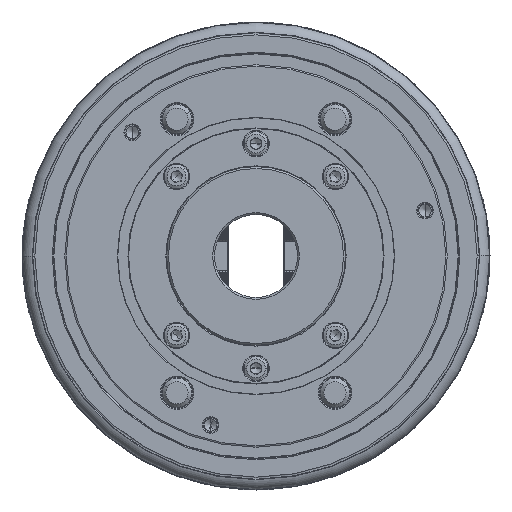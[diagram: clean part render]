
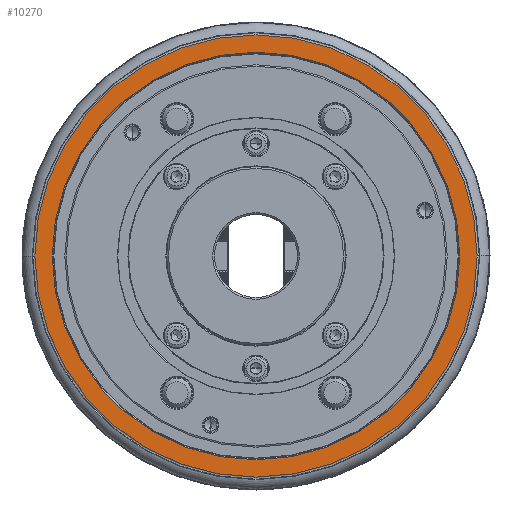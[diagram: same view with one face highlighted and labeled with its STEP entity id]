
A CAD part, left-side view. The second image highlights one B-rep face of the part: STEP entity #10270.
In plain terms, the highlighted planar face has unit normal (-1, 0, 0).
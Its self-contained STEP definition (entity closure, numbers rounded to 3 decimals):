
#752 = CIRCLE ( 'NONE', #49821, 110.6 ) ;
#1271 = VERTEX_POINT ( 'NONE', #66466 ) ;
#3323 = CARTESIAN_POINT ( 'NONE',  ( -100., 0., 0. ) ) ;
#3424 = CIRCLE ( 'NONE', #35236, 120. ) ;
#4767 = DIRECTION ( 'NONE',  ( 1., 0., 0. ) ) ;
#10244 = ORIENTED_EDGE ( 'NONE', *, *, #73659, .T. ) ;
#10270 = ADVANCED_FACE ( 'NONE', ( #31291, #30482 ), #50412, .T. ) ;
#11033 = CARTESIAN_POINT ( 'NONE',  ( -100., 0., 0. ) ) ;
#13024 = DIRECTION ( 'NONE',  ( 0., 0., 1. ) ) ;
#17049 = EDGE_LOOP ( 'NONE', ( #39783, #30533 ) ) ;
#20547 = CARTESIAN_POINT ( 'NONE',  ( -100., 0., 110.6 ) ) ;
#24667 = DIRECTION ( 'NONE',  ( -1., 0., 0. ) ) ;
#24710 = DIRECTION ( 'NONE',  ( 0., 1., 0. ) ) ;
#25098 = EDGE_CURVE ( 'NONE', #32563, #48155, #71460, .T. ) ;
#28642 = DIRECTION ( 'NONE',  ( 0., 0., -1. ) ) ;
#29665 = DIRECTION ( 'NONE',  ( 0., 1., 0. ) ) ;
#30482 = FACE_BOUND ( 'NONE', #31001, .T. ) ;
#30533 = ORIENTED_EDGE ( 'NONE', *, *, #31131, .F. ) ;
#30790 = DIRECTION ( 'NONE',  ( 1., 0., 0. ) ) ;
#31001 = EDGE_LOOP ( 'NONE', ( #38451, #10244 ) ) ;
#31131 = EDGE_CURVE ( 'NONE', #1271, #81856, #51074, .T. ) ;
#31291 = FACE_OUTER_BOUND ( 'NONE', #17049, .T. ) ;
#31333 = AXIS2_PLACEMENT_3D ( 'NONE', #75809, #24667, #13024 ) ;
#32563 = VERTEX_POINT ( 'NONE', #20547 ) ;
#35236 = AXIS2_PLACEMENT_3D ( 'NONE', #41721, #4767, #29665 ) ;
#38451 = ORIENTED_EDGE ( 'NONE', *, *, #25098, .T. ) ;
#39783 = ORIENTED_EDGE ( 'NONE', *, *, #71951, .F. ) ;
#40907 = AXIS2_PLACEMENT_3D ( 'NONE', #3323, #47352, #28642 ) ;
#41721 = CARTESIAN_POINT ( 'NONE',  ( -100., 0., 0. ) ) ;
#43478 = CARTESIAN_POINT ( 'NONE',  ( -100., 0., -110.6 ) ) ;
#45336 = CARTESIAN_POINT ( 'NONE',  ( -100., 120., 0. ) ) ;
#47352 = DIRECTION ( 'NONE',  ( 1., 0., 0. ) ) ;
#48155 = VERTEX_POINT ( 'NONE', #43478 ) ;
#49821 = AXIS2_PLACEMENT_3D ( 'NONE', #63648, #30790, #56561 ) ;
#50412 = PLANE ( 'NONE',  #31333 ) ;
#51074 = CIRCLE ( 'NONE', #60399, 120. ) ;
#56561 = DIRECTION ( 'NONE',  ( 0., 0., -1. ) ) ;
#60399 = AXIS2_PLACEMENT_3D ( 'NONE', #11033, #74240, #24710 ) ;
#63648 = CARTESIAN_POINT ( 'NONE',  ( -100., 0., 0. ) ) ;
#66466 = CARTESIAN_POINT ( 'NONE',  ( -100., -120., 0. ) ) ;
#71460 = CIRCLE ( 'NONE', #40907, 110.6 ) ;
#71951 = EDGE_CURVE ( 'NONE', #81856, #1271, #3424, .T. ) ;
#73659 = EDGE_CURVE ( 'NONE', #48155, #32563, #752, .T. ) ;
#74240 = DIRECTION ( 'NONE',  ( 1., 0., 0. ) ) ;
#75809 = CARTESIAN_POINT ( 'NONE',  ( -100., 0., -110.6 ) ) ;
#81856 = VERTEX_POINT ( 'NONE', #45336 ) ;
